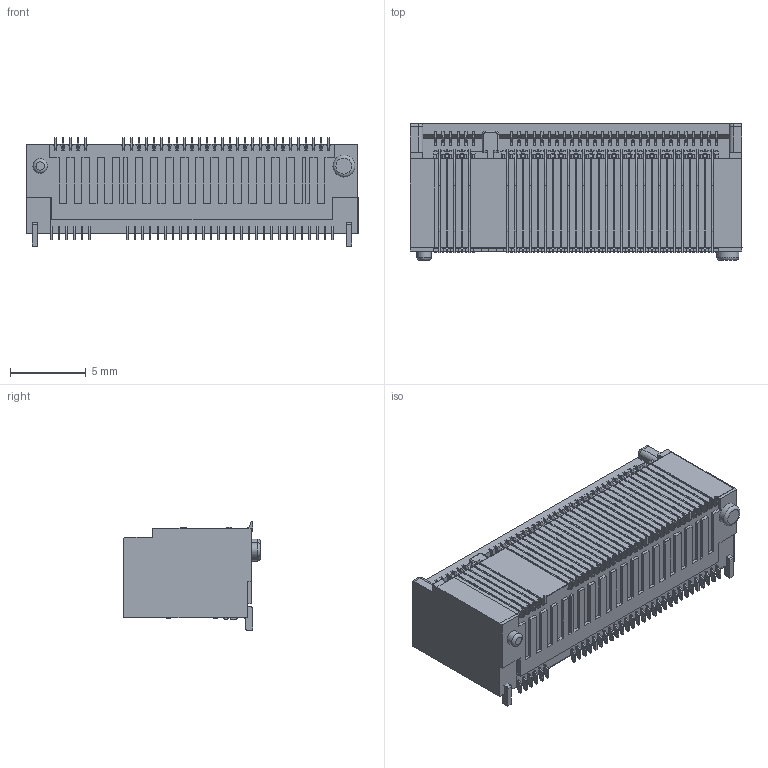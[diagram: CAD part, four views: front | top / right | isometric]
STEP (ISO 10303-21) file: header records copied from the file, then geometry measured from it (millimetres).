
FILE_DESCRIPTION (( 'STEP AP203' ), '1' );
FILE_NAME ('8402-C67G00B7T-G4-1120815.STEP', '2023-08-16T06:08:17', ( '' ), ( '' ), 'SwSTEP 2.0', 'SolidWorks 2019', '' );
FILE_SCHEMA (( 'CONFIG_CONTROL_DESIGN' ));
Products named in the file (2): 8402-C67G00B7T-G4-1120815
Assembly tree (1 placements, depth 2):
  8402-C67G00B7T-G4-1120815
    8402-C67G00B7T-G4-1120815
Bounding box: 21.86 x 9 x 7.12 mm (x, y, z)
Volume: 208.5 mm3; surface area: 2039.4 mm2
Topology: 60 solids, 61 shells, 4755 faces, 13349 edges, 8553 vertices
Faces by surface type: plane 3438, cylinder 1300, bspline 9, torus 4, sphere 4
Full cylindrical faces by diameter (mm): 0.95 x1, 1.45 x1
Entity records: 152351 total; most frequent: CARTESIAN_POINT 28138, ORIENTED_EDGE 26682, DIRECTION 25121, EDGE_CURVE 13341, LINE 10409, VECTOR 10409, VERTEX_POINT 8553, AXIS2_PLACEMENT_3D 7356
